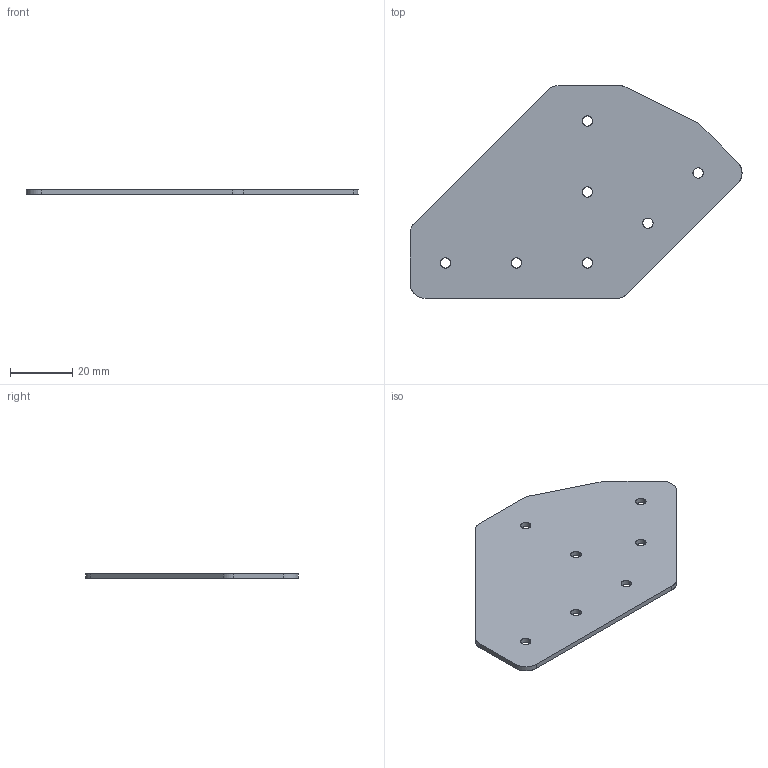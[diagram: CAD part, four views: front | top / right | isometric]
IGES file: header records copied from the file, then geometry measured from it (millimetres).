
Start section: SolidWorks IGES file using analytic representation for surfaces
Global section: file name: C:\Working\Gusset Convert\DRP-002-0009-03.igs; native system: SolidWorks 2010; preprocessor: SolidWorks 2010; author: mbush2; date: 100624.090232; units: inch
Bounding box: 106.38 x 68.2 x 1.59 mm (x, y, z)
Surface area: 10587.3 mm2 (no closed solid volume)
Topology: 0 solids, 0 shells, 30 faces, 638 edges, 638 vertices
Faces by surface type: revolution 21, bspline 9
